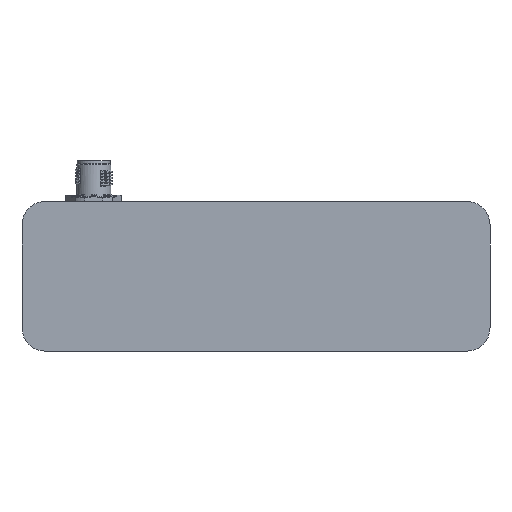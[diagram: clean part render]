
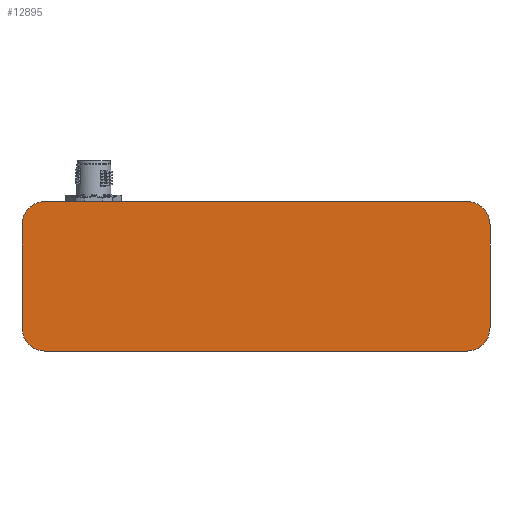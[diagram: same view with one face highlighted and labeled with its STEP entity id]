
A CAD part, front view. The second image highlights one B-rep face of the part: STEP entity #12895.
In plain terms, the highlighted planar face has unit normal (0, -1, 0).
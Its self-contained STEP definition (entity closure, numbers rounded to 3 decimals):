
#50 = AXIS2_PLACEMENT_3D ( 'NONE', #12536, #17926, #15809 ) ;
#168 = ORIENTED_EDGE ( 'NONE', *, *, #12976, .T. ) ;
#243 = VERTEX_POINT ( 'NONE', #8662 ) ;
#359 = EDGE_LOOP ( 'NONE', ( #21760, #168, #3175, #7985, #21109, #3930, #2266, #16592 ) ) ;
#940 = VERTEX_POINT ( 'NONE', #7758 ) ;
#2266 = ORIENTED_EDGE ( 'NONE', *, *, #5402, .F. ) ;
#2541 = VERTEX_POINT ( 'NONE', #2660 ) ;
#2660 = CARTESIAN_POINT ( 'NONE',  ( 150., 0., 40.5 ) ) ;
#2778 = VERTEX_POINT ( 'NONE', #19696 ) ;
#2890 = DIRECTION ( 'NONE',  ( 0., -1., 0. ) ) ;
#3044 = LINE ( 'NONE', #20350, #18462 ) ;
#3144 = DIRECTION ( 'NONE',  ( -1., 0., 0. ) ) ;
#3175 = ORIENTED_EDGE ( 'NONE', *, *, #16726, .F. ) ;
#3379 = VERTEX_POINT ( 'NONE', #20631 ) ;
#3520 = DIRECTION ( 'NONE',  ( 0., 0., 1. ) ) ;
#3793 = DIRECTION ( 'NONE',  ( 0., -1., 0. ) ) ;
#3858 = DIRECTION ( 'NONE',  ( 0., 0., 1. ) ) ;
#3930 = ORIENTED_EDGE ( 'NONE', *, *, #8337, .T. ) ;
#5030 = CIRCLE ( 'NONE', #8918, 7.5 ) ;
#5078 = LINE ( 'NONE', #16722, #13184 ) ;
#5102 = CIRCLE ( 'NONE', #21302, 7.5 ) ;
#5164 = VECTOR ( 'NONE', #3144, 1000. ) ;
#5402 = EDGE_CURVE ( 'NONE', #22110, #940, #3044, .T. ) ;
#6259 = DIRECTION ( 'NONE',  ( 1., 0., 0. ) ) ;
#6429 = DIRECTION ( 'NONE',  ( 0., 0., 1. ) ) ;
#6765 = VECTOR ( 'NONE', #19001, 1000. ) ;
#6766 = CARTESIAN_POINT ( 'NONE',  ( 150., 0., 0. ) ) ;
#7758 = CARTESIAN_POINT ( 'NONE',  ( 0., 0., 40.5 ) ) ;
#7985 = ORIENTED_EDGE ( 'NONE', *, *, #9650, .T. ) ;
#8008 = CIRCLE ( 'NONE', #21146, 7.5 ) ;
#8337 = EDGE_CURVE ( 'NONE', #20377, #940, #8008, .T. ) ;
#8662 = CARTESIAN_POINT ( 'NONE',  ( 150., 0., 7.5 ) ) ;
#8918 = AXIS2_PLACEMENT_3D ( 'NONE', #18000, #12826, #19806 ) ;
#9596 = CARTESIAN_POINT ( 'NONE',  ( 0., 0., 7.5 ) ) ;
#9650 = EDGE_CURVE ( 'NONE', #2541, #2778, #5102, .T. ) ;
#11536 = LINE ( 'NONE', #18931, #6765 ) ;
#12251 = EDGE_CURVE ( 'NONE', #20377, #2778, #5078, .T. ) ;
#12536 = CARTESIAN_POINT ( 'NONE',  ( 0., 0., 48. ) ) ;
#12826 = DIRECTION ( 'NONE',  ( 0., -1., 0. ) ) ;
#12895 = ADVANCED_FACE ( 'NONE', ( #17620 ), #14334, .F. ) ;
#12936 = EDGE_CURVE ( 'NONE', #22110, #3379, #17350, .T. ) ;
#12976 = EDGE_CURVE ( 'NONE', #13699, #243, #5030, .T. ) ;
#13184 = VECTOR ( 'NONE', #6259, 1000. ) ;
#13292 = CARTESIAN_POINT ( 'NONE',  ( 142.5, 0., 0. ) ) ;
#13542 = CARTESIAN_POINT ( 'NONE',  ( 142.5, 0., 40.5 ) ) ;
#13699 = VERTEX_POINT ( 'NONE', #13292 ) ;
#14169 = DIRECTION ( 'NONE',  ( 0., -1., 0. ) ) ;
#14334 = PLANE ( 'NONE',  #50 ) ;
#15437 = EDGE_CURVE ( 'NONE', #13699, #3379, #20005, .T. ) ;
#15562 = CARTESIAN_POINT ( 'NONE',  ( 7.5, 0., 48. ) ) ;
#15809 = DIRECTION ( 'NONE',  ( 0., 0., 1. ) ) ;
#15883 = CARTESIAN_POINT ( 'NONE',  ( 7.5, 0., 7.5 ) ) ;
#16592 = ORIENTED_EDGE ( 'NONE', *, *, #12936, .T. ) ;
#16722 = CARTESIAN_POINT ( 'NONE',  ( 0., 0., 48. ) ) ;
#16726 = EDGE_CURVE ( 'NONE', #2541, #243, #11536, .T. ) ;
#17350 = CIRCLE ( 'NONE', #22562, 7.5 ) ;
#17620 = FACE_OUTER_BOUND ( 'NONE', #359, .T. ) ;
#17926 = DIRECTION ( 'NONE',  ( 0., 1., 0. ) ) ;
#18000 = CARTESIAN_POINT ( 'NONE',  ( 142.5, 0., 7.5 ) ) ;
#18194 = CARTESIAN_POINT ( 'NONE',  ( 7.5, 0., 40.5 ) ) ;
#18462 = VECTOR ( 'NONE', #18761, 1000. ) ;
#18761 = DIRECTION ( 'NONE',  ( 0., 0., 1. ) ) ;
#18931 = CARTESIAN_POINT ( 'NONE',  ( 150., 0., 48. ) ) ;
#19001 = DIRECTION ( 'NONE',  ( 0., 0., -1. ) ) ;
#19696 = CARTESIAN_POINT ( 'NONE',  ( 142.5, 0., 48. ) ) ;
#19806 = DIRECTION ( 'NONE',  ( 0., 0., 1. ) ) ;
#20005 = LINE ( 'NONE', #6766, #5164 ) ;
#20350 = CARTESIAN_POINT ( 'NONE',  ( 0., 0., 0. ) ) ;
#20377 = VERTEX_POINT ( 'NONE', #15562 ) ;
#20631 = CARTESIAN_POINT ( 'NONE',  ( 7.5, 0., 0. ) ) ;
#21109 = ORIENTED_EDGE ( 'NONE', *, *, #12251, .F. ) ;
#21146 = AXIS2_PLACEMENT_3D ( 'NONE', #18194, #3793, #3858 ) ;
#21302 = AXIS2_PLACEMENT_3D ( 'NONE', #13542, #2890, #6429 ) ;
#21760 = ORIENTED_EDGE ( 'NONE', *, *, #15437, .F. ) ;
#22110 = VERTEX_POINT ( 'NONE', #9596 ) ;
#22562 = AXIS2_PLACEMENT_3D ( 'NONE', #15883, #14169, #3520 ) ;
